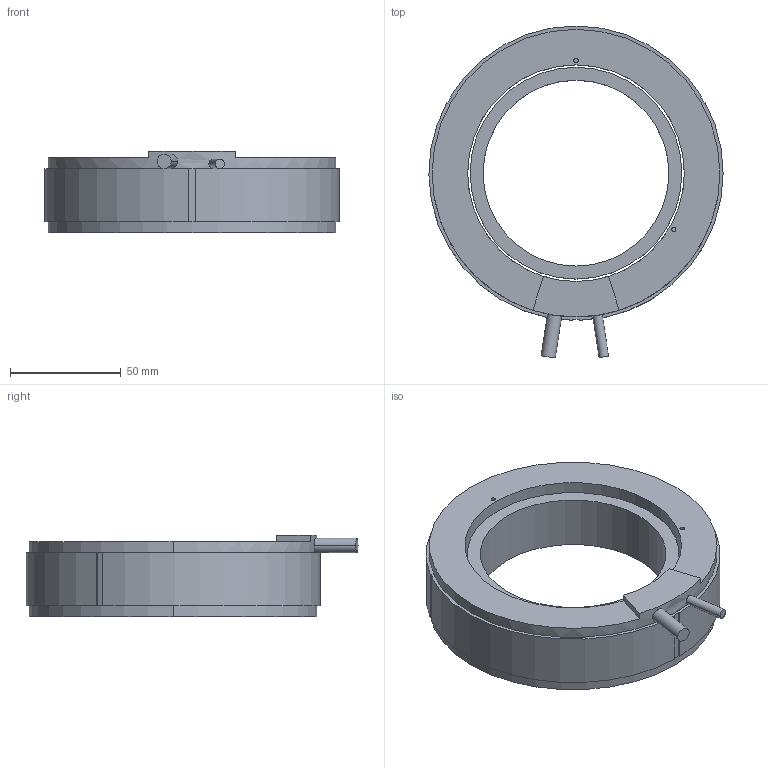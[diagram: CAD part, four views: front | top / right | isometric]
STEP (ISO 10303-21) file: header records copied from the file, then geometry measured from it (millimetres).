
FILE_DESCRIPTION (( 'STEP AP203' ), '1' );
FILE_NAME ('TM133-34 3D.STEP', '2024-01-12T02:53:33', ( '' ), ( '' ), 'SwSTEP 2.0', 'SolidWorks 2021', '' );
FILE_SCHEMA (( 'CONFIG_CONTROL_DESIGN' ));
Length unit declared in the file: millimetre
Products named in the file (1): TM133-34 3D
Bounding box: 133 x 150.04 x 37 mm (x, y, z)
Volume: 253308.2 mm3; surface area: 55526.6 mm2
Topology: 2 solids, 2 shells, 44 faces, 105 edges, 70 vertices
Faces by surface type: cylinder 22, plane 22
Entity records: 1492 total; most frequent: CARTESIAN_POINT 344, DIRECTION 235, ORIENTED_EDGE 210, EDGE_CURVE 105, AXIS2_PLACEMENT_3D 89, VERTEX_POINT 70, VECTOR 57, LINE 57
